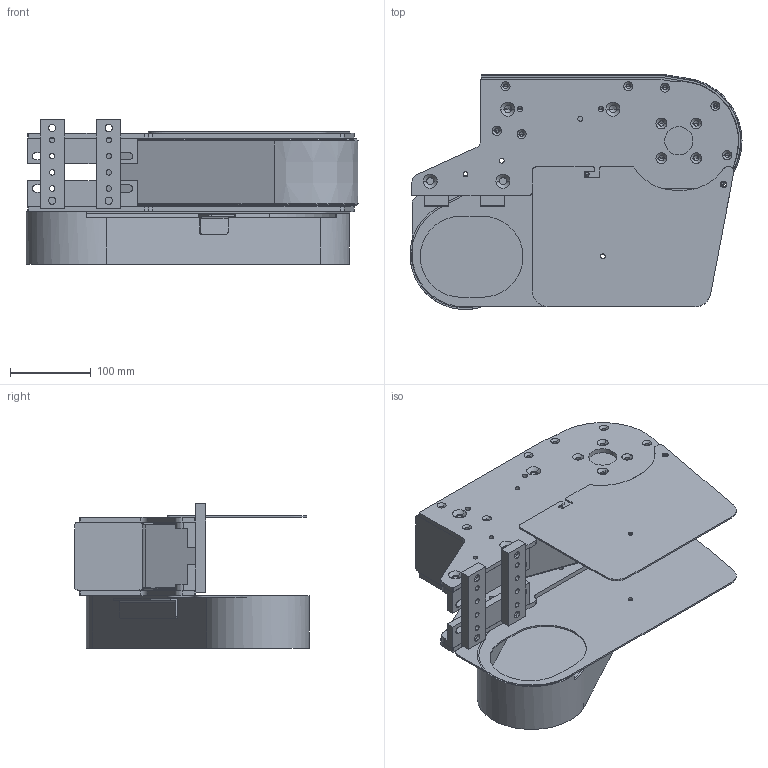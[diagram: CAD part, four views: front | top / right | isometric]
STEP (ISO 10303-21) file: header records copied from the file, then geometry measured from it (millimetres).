
FILE_DESCRIPTION (( 'STEP AP214' ), '1' );
FILE_NAME ('FMSD OL.step', '2017-04-07T11:08:47', ( '' ), ( '' ), 'SwSTEP 2.0', 'SolidWorks 2016', '' );
FILE_SCHEMA (( 'AUTOMOTIVE_DESIGN' ));
Length unit declared in the file: millimetre
Products named in the file (1): FMSD OL
Bounding box: 410.48 x 290.42 x 178.5 mm (x, y, z)
Volume: 4488293.7 mm3; surface area: 825647.2 mm2
Topology: 10 solids, 10 shells, 577 faces, 1522 edges, 940 vertices
Faces by surface type: cylinder 291, plane 147, cone 124, torus 8, bspline 7
Entity records: 20704 total; most frequent: CARTESIAN_POINT 3661, DIRECTION 3266, ORIENTED_EDGE 2924, EDGE_CURVE 1462, AXIS2_PLACEMENT_3D 1245, VERTEX_POINT 940, VECTOR 776, LINE 776
